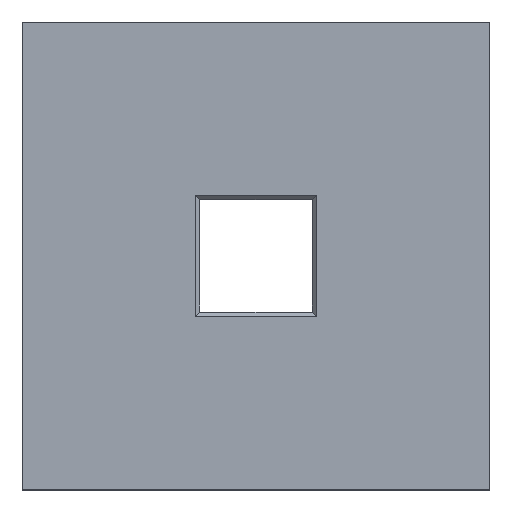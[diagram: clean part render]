
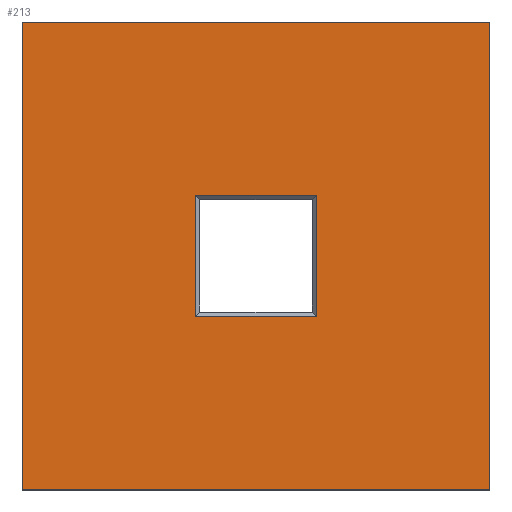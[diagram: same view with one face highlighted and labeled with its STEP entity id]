
A CAD part, top view. The second image highlights one B-rep face of the part: STEP entity #213.
In plain terms, the highlighted planar face has unit normal (0, 0, 1).
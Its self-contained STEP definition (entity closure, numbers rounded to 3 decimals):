
#24 = VERTEX_POINT('',#25);
#25 = CARTESIAN_POINT('',(-50.,-50.,30.));
#32 = PLANE('',#33);
#33 = AXIS2_PLACEMENT_3D('',#34,#35,#36);
#34 = CARTESIAN_POINT('',(-50.,-50.,0.));
#35 = DIRECTION('',(1.,0.,0.));
#36 = DIRECTION('',(0.,0.,1.));
#44 = PLANE('',#45);
#45 = AXIS2_PLACEMENT_3D('',#46,#47,#48);
#46 = CARTESIAN_POINT('',(-50.,-50.,0.));
#47 = DIRECTION('',(0.,1.,0.));
#48 = DIRECTION('',(0.,0.,1.));
#85 = VERTEX_POINT('',#86);
#86 = CARTESIAN_POINT('',(-50.,50.,30.));
#100 = PLANE('',#101);
#101 = AXIS2_PLACEMENT_3D('',#102,#103,#104);
#102 = CARTESIAN_POINT('',(-50.,50.,0.));
#103 = DIRECTION('',(0.,1.,0.));
#104 = DIRECTION('',(0.,0.,1.));
#112 = EDGE_CURVE('',#24,#85,#113,.T.);
#113 = SURFACE_CURVE('',#114,(#118,#125),.PCURVE_S1.);
#114 = LINE('',#115,#116);
#115 = CARTESIAN_POINT('',(-50.,-50.,30.));
#116 = VECTOR('',#117,1.);
#117 = DIRECTION('',(0.,1.,0.));
#118 = PCURVE('',#32,#119);
#119 = DEFINITIONAL_REPRESENTATION('',(#120),#124);
#120 = LINE('',#121,#122);
#121 = CARTESIAN_POINT('',(30.,0.));
#122 = VECTOR('',#123,1.);
#123 = DIRECTION('',(0.,-1.));
#124 = ( GEOMETRIC_REPRESENTATION_CONTEXT(2) 
PARAMETRIC_REPRESENTATION_CONTEXT() REPRESENTATION_CONTEXT('2D SPACE',''
  ) );
#125 = PCURVE('',#126,#131);
#126 = PLANE('',#127);
#127 = AXIS2_PLACEMENT_3D('',#128,#129,#130);
#128 = CARTESIAN_POINT('',(-50.,-50.,30.));
#129 = DIRECTION('',(0.,0.,1.));
#130 = DIRECTION('',(1.,0.,0.));
#131 = DEFINITIONAL_REPRESENTATION('',(#132),#136);
#132 = LINE('',#133,#134);
#133 = CARTESIAN_POINT('',(0.,0.));
#134 = VECTOR('',#135,1.);
#135 = DIRECTION('',(0.,1.));
#136 = ( GEOMETRIC_REPRESENTATION_CONTEXT(2) 
PARAMETRIC_REPRESENTATION_CONTEXT() REPRESENTATION_CONTEXT('2D SPACE',''
  ) );
#165 = EDGE_CURVE('',#24,#166,#168,.T.);
#166 = VERTEX_POINT('',#167);
#167 = CARTESIAN_POINT('',(50.,-50.,30.));
#168 = SURFACE_CURVE('',#169,(#173,#180),.PCURVE_S1.);
#169 = LINE('',#170,#171);
#170 = CARTESIAN_POINT('',(-50.,-50.,30.));
#171 = VECTOR('',#172,1.);
#172 = DIRECTION('',(1.,0.,0.));
#173 = PCURVE('',#44,#174);
#174 = DEFINITIONAL_REPRESENTATION('',(#175),#179);
#175 = LINE('',#176,#177);
#176 = CARTESIAN_POINT('',(30.,0.));
#177 = VECTOR('',#178,1.);
#178 = DIRECTION('',(0.,1.));
#179 = ( GEOMETRIC_REPRESENTATION_CONTEXT(2) 
PARAMETRIC_REPRESENTATION_CONTEXT() REPRESENTATION_CONTEXT('2D SPACE',''
  ) );
#180 = PCURVE('',#126,#181);
#181 = DEFINITIONAL_REPRESENTATION('',(#182),#186);
#182 = LINE('',#183,#184);
#183 = CARTESIAN_POINT('',(0.,0.));
#184 = VECTOR('',#185,1.);
#185 = DIRECTION('',(1.,0.));
#186 = ( GEOMETRIC_REPRESENTATION_CONTEXT(2) 
PARAMETRIC_REPRESENTATION_CONTEXT() REPRESENTATION_CONTEXT('2D SPACE',''
  ) );
#202 = PLANE('',#203);
#203 = AXIS2_PLACEMENT_3D('',#204,#205,#206);
#204 = CARTESIAN_POINT('',(50.,-50.,0.));
#205 = DIRECTION('',(1.,0.,0.));
#206 = DIRECTION('',(0.,0.,1.));
#213 = ADVANCED_FACE('',(#214,#262),#126,.T.);
#214 = FACE_BOUND('',#215,.T.);
#215 = EDGE_LOOP('',(#216,#217,#218,#241));
#216 = ORIENTED_EDGE('',*,*,#112,.F.);
#217 = ORIENTED_EDGE('',*,*,#165,.T.);
#218 = ORIENTED_EDGE('',*,*,#219,.T.);
#219 = EDGE_CURVE('',#166,#220,#222,.T.);
#220 = VERTEX_POINT('',#221);
#221 = CARTESIAN_POINT('',(50.,50.,30.));
#222 = SURFACE_CURVE('',#223,(#227,#234),.PCURVE_S1.);
#223 = LINE('',#224,#225);
#224 = CARTESIAN_POINT('',(50.,-50.,30.));
#225 = VECTOR('',#226,1.);
#226 = DIRECTION('',(0.,1.,0.));
#227 = PCURVE('',#126,#228);
#228 = DEFINITIONAL_REPRESENTATION('',(#229),#233);
#229 = LINE('',#230,#231);
#230 = CARTESIAN_POINT('',(100.,0.));
#231 = VECTOR('',#232,1.);
#232 = DIRECTION('',(0.,1.));
#233 = ( GEOMETRIC_REPRESENTATION_CONTEXT(2) 
PARAMETRIC_REPRESENTATION_CONTEXT() REPRESENTATION_CONTEXT('2D SPACE',''
  ) );
#234 = PCURVE('',#202,#235);
#235 = DEFINITIONAL_REPRESENTATION('',(#236),#240);
#236 = LINE('',#237,#238);
#237 = CARTESIAN_POINT('',(30.,0.));
#238 = VECTOR('',#239,1.);
#239 = DIRECTION('',(0.,-1.));
#240 = ( GEOMETRIC_REPRESENTATION_CONTEXT(2) 
PARAMETRIC_REPRESENTATION_CONTEXT() REPRESENTATION_CONTEXT('2D SPACE',''
  ) );
#241 = ORIENTED_EDGE('',*,*,#242,.F.);
#242 = EDGE_CURVE('',#85,#220,#243,.T.);
#243 = SURFACE_CURVE('',#244,(#248,#255),.PCURVE_S1.);
#244 = LINE('',#245,#246);
#245 = CARTESIAN_POINT('',(-50.,50.,30.));
#246 = VECTOR('',#247,1.);
#247 = DIRECTION('',(1.,0.,0.));
#248 = PCURVE('',#126,#249);
#249 = DEFINITIONAL_REPRESENTATION('',(#250),#254);
#250 = LINE('',#251,#252);
#251 = CARTESIAN_POINT('',(0.,100.));
#252 = VECTOR('',#253,1.);
#253 = DIRECTION('',(1.,0.));
#254 = ( GEOMETRIC_REPRESENTATION_CONTEXT(2) 
PARAMETRIC_REPRESENTATION_CONTEXT() REPRESENTATION_CONTEXT('2D SPACE',''
  ) );
#255 = PCURVE('',#100,#256);
#256 = DEFINITIONAL_REPRESENTATION('',(#257),#261);
#257 = LINE('',#258,#259);
#258 = CARTESIAN_POINT('',(30.,0.));
#259 = VECTOR('',#260,1.);
#260 = DIRECTION('',(0.,1.));
#261 = ( GEOMETRIC_REPRESENTATION_CONTEXT(2) 
PARAMETRIC_REPRESENTATION_CONTEXT() REPRESENTATION_CONTEXT('2D SPACE',''
  ) );
#262 = FACE_BOUND('',#263,.T.);
#263 = EDGE_LOOP('',(#264,#294,#322,#350));
#264 = ORIENTED_EDGE('',*,*,#265,.F.);
#265 = EDGE_CURVE('',#266,#268,#270,.T.);
#266 = VERTEX_POINT('',#267);
#267 = CARTESIAN_POINT('',(-13.,-13.,30.));
#268 = VERTEX_POINT('',#269);
#269 = CARTESIAN_POINT('',(13.,-13.,30.));
#270 = SURFACE_CURVE('',#271,(#275,#282),.PCURVE_S1.);
#271 = LINE('',#272,#273);
#272 = CARTESIAN_POINT('',(-13.,-13.,30.));
#273 = VECTOR('',#274,1.);
#274 = DIRECTION('',(1.,0.,0.));
#275 = PCURVE('',#126,#276);
#276 = DEFINITIONAL_REPRESENTATION('',(#277),#281);
#277 = LINE('',#278,#279);
#278 = CARTESIAN_POINT('',(37.,37.));
#279 = VECTOR('',#280,1.);
#280 = DIRECTION('',(1.,0.));
#281 = ( GEOMETRIC_REPRESENTATION_CONTEXT(2) 
PARAMETRIC_REPRESENTATION_CONTEXT() REPRESENTATION_CONTEXT('2D SPACE',''
  ) );
#282 = PCURVE('',#283,#288);
#283 = B_SPLINE_SURFACE_WITH_KNOTS('',1,1,(
    (#284,#285)
    ,(#286,#287
  )),.UNSPECIFIED.,.F.,.F.,.F.,(2,2),(2,2),(0.,26.),(0.,1.),
  .PIECEWISE_BEZIER_KNOTS.);
#284 = CARTESIAN_POINT('',(-12.,-12.,29.));
#285 = CARTESIAN_POINT('',(-13.,-13.,30.));
#286 = CARTESIAN_POINT('',(12.,-12.,29.));
#287 = CARTESIAN_POINT('',(13.,-13.,30.));
#288 = DEFINITIONAL_REPRESENTATION('',(#289),#293);
#289 = LINE('',#290,#291);
#290 = CARTESIAN_POINT('',(0.,1.));
#291 = VECTOR('',#292,1.);
#292 = DIRECTION('',(1.,0.));
#293 = ( GEOMETRIC_REPRESENTATION_CONTEXT(2) 
PARAMETRIC_REPRESENTATION_CONTEXT() REPRESENTATION_CONTEXT('2D SPACE',''
  ) );
#294 = ORIENTED_EDGE('',*,*,#295,.F.);
#295 = EDGE_CURVE('',#296,#266,#298,.T.);
#296 = VERTEX_POINT('',#297);
#297 = CARTESIAN_POINT('',(-13.,13.,30.));
#298 = SURFACE_CURVE('',#299,(#303,#310),.PCURVE_S1.);
#299 = LINE('',#300,#301);
#300 = CARTESIAN_POINT('',(-13.,13.,30.));
#301 = VECTOR('',#302,1.);
#302 = DIRECTION('',(0.,-1.,0.));
#303 = PCURVE('',#126,#304);
#304 = DEFINITIONAL_REPRESENTATION('',(#305),#309);
#305 = LINE('',#306,#307);
#306 = CARTESIAN_POINT('',(37.,63.));
#307 = VECTOR('',#308,1.);
#308 = DIRECTION('',(0.,-1.));
#309 = ( GEOMETRIC_REPRESENTATION_CONTEXT(2) 
PARAMETRIC_REPRESENTATION_CONTEXT() REPRESENTATION_CONTEXT('2D SPACE',''
  ) );
#310 = PCURVE('',#311,#316);
#311 = B_SPLINE_SURFACE_WITH_KNOTS('',1,1,(
    (#312,#313)
    ,(#314,#315
  )),.UNSPECIFIED.,.F.,.F.,.F.,(2,2),(2,2),(0.,26.),(0.,1.),
  .PIECEWISE_BEZIER_KNOTS.);
#312 = CARTESIAN_POINT('',(-12.,12.,29.));
#313 = CARTESIAN_POINT('',(-13.,13.,30.));
#314 = CARTESIAN_POINT('',(-12.,-12.,29.));
#315 = CARTESIAN_POINT('',(-13.,-13.,30.));
#316 = DEFINITIONAL_REPRESENTATION('',(#317),#321);
#317 = LINE('',#318,#319);
#318 = CARTESIAN_POINT('',(0.,1.));
#319 = VECTOR('',#320,1.);
#320 = DIRECTION('',(1.,0.));
#321 = ( GEOMETRIC_REPRESENTATION_CONTEXT(2) 
PARAMETRIC_REPRESENTATION_CONTEXT() REPRESENTATION_CONTEXT('2D SPACE',''
  ) );
#322 = ORIENTED_EDGE('',*,*,#323,.F.);
#323 = EDGE_CURVE('',#324,#296,#326,.T.);
#324 = VERTEX_POINT('',#325);
#325 = CARTESIAN_POINT('',(13.,13.,30.));
#326 = SURFACE_CURVE('',#327,(#331,#338),.PCURVE_S1.);
#327 = LINE('',#328,#329);
#328 = CARTESIAN_POINT('',(13.,13.,30.));
#329 = VECTOR('',#330,1.);
#330 = DIRECTION('',(-1.,0.,0.));
#331 = PCURVE('',#126,#332);
#332 = DEFINITIONAL_REPRESENTATION('',(#333),#337);
#333 = LINE('',#334,#335);
#334 = CARTESIAN_POINT('',(63.,63.));
#335 = VECTOR('',#336,1.);
#336 = DIRECTION('',(-1.,0.));
#337 = ( GEOMETRIC_REPRESENTATION_CONTEXT(2) 
PARAMETRIC_REPRESENTATION_CONTEXT() REPRESENTATION_CONTEXT('2D SPACE',''
  ) );
#338 = PCURVE('',#339,#344);
#339 = B_SPLINE_SURFACE_WITH_KNOTS('',1,1,(
    (#340,#341)
    ,(#342,#343
  )),.UNSPECIFIED.,.F.,.F.,.F.,(2,2),(2,2),(0.,26.),(0.,1.),
  .PIECEWISE_BEZIER_KNOTS.);
#340 = CARTESIAN_POINT('',(12.,12.,29.));
#341 = CARTESIAN_POINT('',(13.,13.,30.));
#342 = CARTESIAN_POINT('',(-12.,12.,29.));
#343 = CARTESIAN_POINT('',(-13.,13.,30.));
#344 = DEFINITIONAL_REPRESENTATION('',(#345),#349);
#345 = LINE('',#346,#347);
#346 = CARTESIAN_POINT('',(0.,1.));
#347 = VECTOR('',#348,1.);
#348 = DIRECTION('',(1.,0.));
#349 = ( GEOMETRIC_REPRESENTATION_CONTEXT(2) 
PARAMETRIC_REPRESENTATION_CONTEXT() REPRESENTATION_CONTEXT('2D SPACE',''
  ) );
#350 = ORIENTED_EDGE('',*,*,#351,.F.);
#351 = EDGE_CURVE('',#268,#324,#352,.T.);
#352 = SURFACE_CURVE('',#353,(#357,#364),.PCURVE_S1.);
#353 = LINE('',#354,#355);
#354 = CARTESIAN_POINT('',(13.,-13.,30.));
#355 = VECTOR('',#356,1.);
#356 = DIRECTION('',(0.,1.,0.));
#357 = PCURVE('',#126,#358);
#358 = DEFINITIONAL_REPRESENTATION('',(#359),#363);
#359 = LINE('',#360,#361);
#360 = CARTESIAN_POINT('',(63.,37.));
#361 = VECTOR('',#362,1.);
#362 = DIRECTION('',(0.,1.));
#363 = ( GEOMETRIC_REPRESENTATION_CONTEXT(2) 
PARAMETRIC_REPRESENTATION_CONTEXT() REPRESENTATION_CONTEXT('2D SPACE',''
  ) );
#364 = PCURVE('',#365,#370);
#365 = B_SPLINE_SURFACE_WITH_KNOTS('',1,1,(
    (#366,#367)
    ,(#368,#369
  )),.UNSPECIFIED.,.F.,.F.,.F.,(2,2),(2,2),(0.,26.),(0.,1.),
  .PIECEWISE_BEZIER_KNOTS.);
#366 = CARTESIAN_POINT('',(12.,-12.,29.));
#367 = CARTESIAN_POINT('',(13.,-13.,30.));
#368 = CARTESIAN_POINT('',(12.,12.,29.));
#369 = CARTESIAN_POINT('',(13.,13.,30.));
#370 = DEFINITIONAL_REPRESENTATION('',(#371),#375);
#371 = LINE('',#372,#373);
#372 = CARTESIAN_POINT('',(0.,1.));
#373 = VECTOR('',#374,1.);
#374 = DIRECTION('',(1.,0.));
#375 = ( GEOMETRIC_REPRESENTATION_CONTEXT(2) 
PARAMETRIC_REPRESENTATION_CONTEXT() REPRESENTATION_CONTEXT('2D SPACE',''
  ) );
